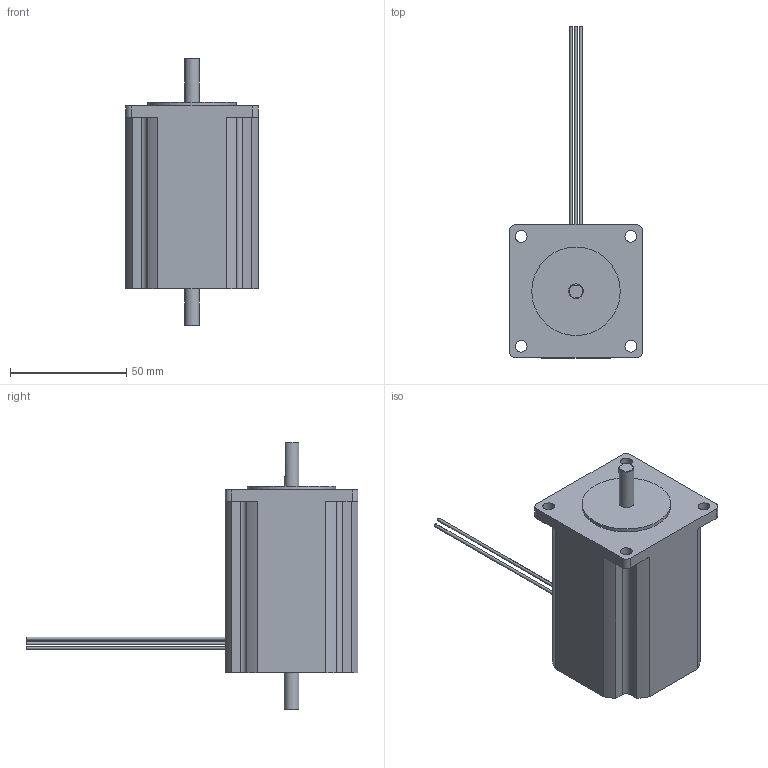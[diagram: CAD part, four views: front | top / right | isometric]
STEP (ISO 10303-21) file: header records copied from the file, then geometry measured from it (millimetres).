
FILE_DESCRIPTION((''),'2;1');
FILE_NAME('C:\Inventor Standard Motors\Eng vault\Workspace\rich''s work space\updated web dwgs\stp\5718\5718l dbl.stp','2009-05-26T20:27:38',('rbadgerow'),(''),'Autodesk Inventor 2009','Autodesk Inventor 2009','');
FILE_SCHEMA(('AUTOMOTIVE_DESIGN { 1 0 10303 214 1 1 1 1 }'));
Length unit declared in the file: inch
Products named in the file (1): 5718l dbl
Bounding box: 57.15 x 142.88 x 115.32 mm (x, y, z)
Volume: 231306 mm3; surface area: 25379.2 mm2
Topology: 1 solids, 1 shells, 56 faces, 144 edges, 97 vertices
Faces by surface type: cylinder 27, plane 27, cone 2
Full cylindrical faces by diameter (mm): 1.27 x4, 5.08 x4, 6.35 x2, 38.1 x1
Entity records: 1751 total; most frequent: DIRECTION 300, CARTESIAN_POINT 284, ORIENTED_EDGE 258, EDGE_CURVE 129, AXIS2_PLACEMENT_3D 116, VERTEX_POINT 94, EDGE_LOOP 83, VECTOR 68
